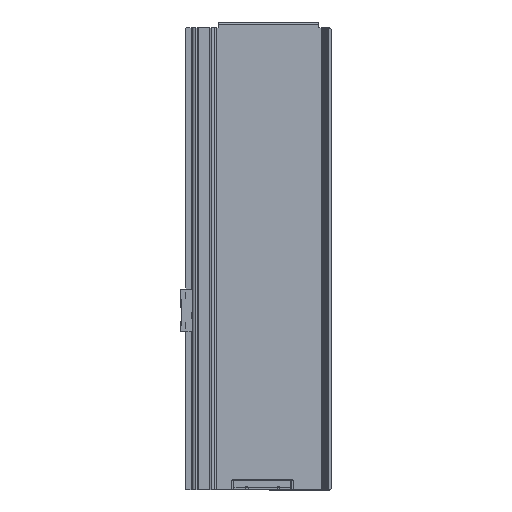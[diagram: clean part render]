
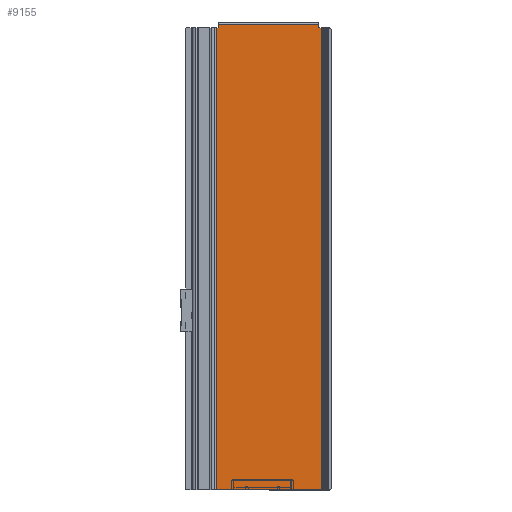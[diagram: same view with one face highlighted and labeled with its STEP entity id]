
A CAD part, left-side view. The second image highlights one B-rep face of the part: STEP entity #9155.
In plain terms, the highlighted planar face has unit normal (-1, 0, 0) as drawn and (1, 0, 0) by its records, which use the part's own axes.
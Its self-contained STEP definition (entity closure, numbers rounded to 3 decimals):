
#271=PLANE('',#9974);
#758=LINE('',#14776,#1502);
#763=LINE('',#14791,#1507);
#768=LINE('',#14800,#1512);
#769=LINE('',#14803,#1513);
#806=LINE('',#14928,#1550);
#824=LINE('',#14976,#1568);
#825=LINE('',#14979,#1569);
#826=LINE('',#14980,#1570);
#1502=VECTOR('',#11856,10.);
#1507=VECTOR('',#11871,10.);
#1512=VECTOR('',#11878,10.);
#1513=VECTOR('',#11881,10.);
#1550=VECTOR('',#11988,10.);
#1568=VECTOR('',#12042,10.);
#1569=VECTOR('',#12045,10.);
#1570=VECTOR('',#12046,10.);
#2243=FACE_OUTER_BOUND('',#2805,.T.);
#2805=EDGE_LOOP('',(#7184,#7185,#7186,#7187,#7188,#7189,#7190,#7191));
#3986=VERTEX_POINT('',#14772);
#3987=VERTEX_POINT('',#14774);
#3992=VERTEX_POINT('',#14790);
#3995=VERTEX_POINT('',#14798);
#3996=VERTEX_POINT('',#14802);
#4049=VERTEX_POINT('',#14926);
#4061=VERTEX_POINT('',#14974);
#4062=VERTEX_POINT('',#14978);
#5063=EDGE_CURVE('',#3986,#3987,#758,.T.);
#5070=EDGE_CURVE('',#3992,#3986,#763,.T.);
#5075=EDGE_CURVE('',#3987,#3995,#768,.T.);
#5076=EDGE_CURVE('',#3996,#3992,#769,.T.);
#5139=EDGE_CURVE('',#3995,#4049,#806,.T.);
#5163=EDGE_CURVE('',#4061,#4049,#824,.T.);
#5164=EDGE_CURVE('',#4062,#4061,#825,.T.);
#5165=EDGE_CURVE('',#4062,#3996,#826,.T.);
#7184=ORIENTED_EDGE('',*,*,#5164,.F.);
#7185=ORIENTED_EDGE('',*,*,#5165,.T.);
#7186=ORIENTED_EDGE('',*,*,#5076,.T.);
#7187=ORIENTED_EDGE('',*,*,#5070,.T.);
#7188=ORIENTED_EDGE('',*,*,#5063,.T.);
#7189=ORIENTED_EDGE('',*,*,#5075,.T.);
#7190=ORIENTED_EDGE('',*,*,#5139,.T.);
#7191=ORIENTED_EDGE('',*,*,#5163,.F.);
#9155=ADVANCED_FACE('',(#2243),#271,.F.);
#9974=AXIS2_PLACEMENT_3D('',#14977,#12043,#12044);
#11856=DIRECTION('',(0.,-1.,0.));
#11871=DIRECTION('',(0.,0.,1.));
#11878=DIRECTION('',(0.,0.,-1.));
#11881=DIRECTION('',(0.,-1.,0.));
#11988=DIRECTION('',(0.,-1.,0.));
#12042=DIRECTION('',(0.,0.,1.));
#12043=DIRECTION('center_axis',(-1.,0.,0.));
#12044=DIRECTION('ref_axis',(0.,-1.,0.));
#12045=DIRECTION('',(0.,-1.,0.));
#12046=DIRECTION('',(0.,0.,1.));
#14772=CARTESIAN_POINT('',(4.9,113.,395.6));
#14774=CARTESIAN_POINT('',(4.9,27.5,395.6));
#14776=CARTESIAN_POINT('',(4.9,113.,395.6));
#14790=CARTESIAN_POINT('',(4.9,113.,393.));
#14791=CARTESIAN_POINT('',(4.9,113.,393.));
#14798=CARTESIAN_POINT('',(4.9,27.5,393.));
#14800=CARTESIAN_POINT('',(4.9,27.5,393.));
#14802=CARTESIAN_POINT('',(4.9,115.342,393.));
#14803=CARTESIAN_POINT('',(4.9,115.342,393.));
#14926=CARTESIAN_POINT('',(4.9,25.9,393.));
#14928=CARTESIAN_POINT('',(4.9,115.342,393.));
#14974=CARTESIAN_POINT('',(4.9,25.9,0.));
#14976=CARTESIAN_POINT('',(4.9,25.9,0.));
#14977=CARTESIAN_POINT('Origin',(4.9,115.342,0.));
#14978=CARTESIAN_POINT('',(4.9,115.342,0.));
#14979=CARTESIAN_POINT('',(4.9,115.342,0.));
#14980=CARTESIAN_POINT('',(4.9,115.342,0.));
